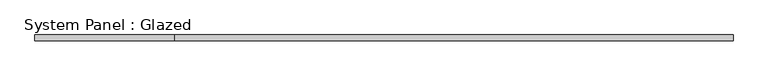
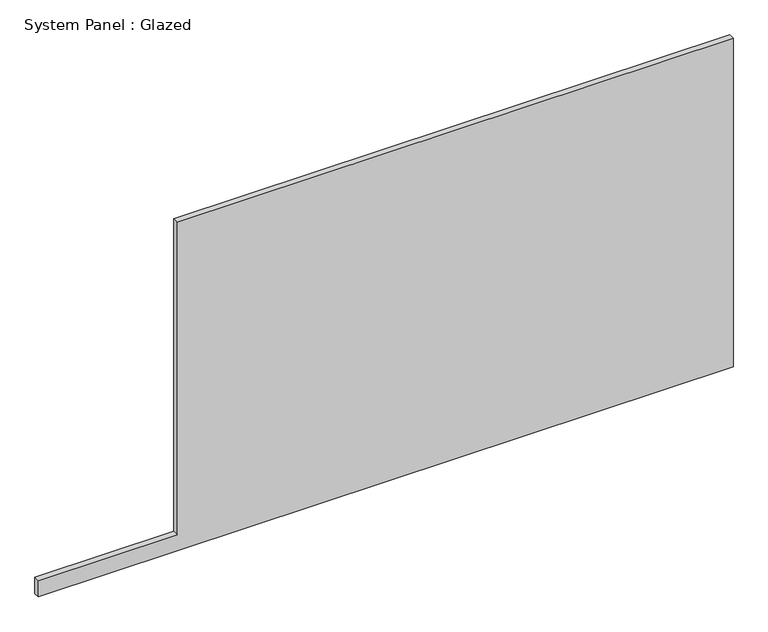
"""IFC4 building model written with IfcOpenShell, lengths in millimetres: plate geometry, System Panel : Glazed."""

from ifc_helpers import new_model, si_unit, frame, origin, place, context, project, spatial, polyline, outline, extrude, source, transform, mapped, element, save


def system_panel_glazed_5a251e68(model_context):
    return source(origin(), model_context, "Body", "SweptSolid", [
        extrude(outline(polyline([(0.0, -1524.0), (0.0, 1524.0), (1524.0, 1524.0), (1524.0, -914.4), (75.8898546, -914.4), (75.8898546, -1524.0), (0.0, -1524.0)])), frame((0.0, 19.05, 0.0), z_axis=(0.0, 1.0, 0.0), x_axis=(0.0, 0.0, 1.0)), (0.0, 0.0, 1.0), 25.4),
    ])


if __name__ == "__main__":
    model = new_model("IFC4")
    model_context = context("Model", 3, world=origin())
    ifc_project = project(units=[si_unit("LENGTHUNIT", "METRE", prefix="MILLI")], contexts=[model_context])
    site = spatial("IfcSite", under=ifc_project)
    building = spatial("IfcBuilding", under=site)
    placement = place(None, origin())
    system_panel_glazed_shape = system_panel_glazed_5a251e68(model_context)
    element("IfcPlate", 1, ObjectType="System Panel : Glazed", at=placement, inside=building, context=model_context, shape_type="MappedRepresentation", body=[
        mapped(system_panel_glazed_shape, transform((0.0, 0.0, 0.0), x_axis=(1.0, 0.0, 0.0), y_axis=(0.0, 1.0, 0.0), z_axis=(0.0, 0.0, 1.0))),
    ])
    save(model, "model.ifc")
